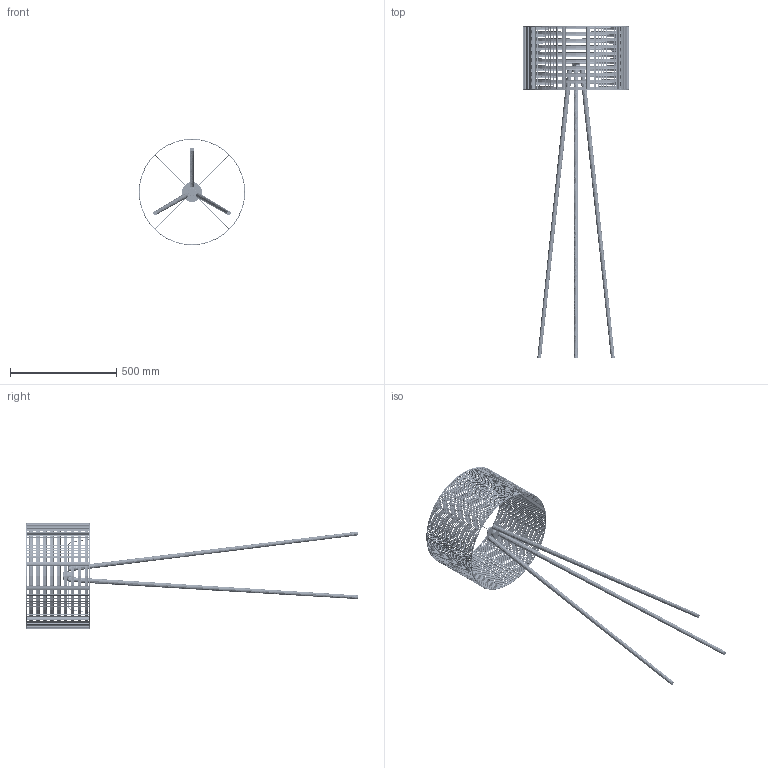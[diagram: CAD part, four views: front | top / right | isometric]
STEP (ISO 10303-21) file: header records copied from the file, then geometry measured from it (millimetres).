
FILE_DESCRIPTION(/* description */ (''),/* implementation_level */ '2;1');
FILE_NAME(/* name */ 'C:/Users/kubaw/OneDrive/Pulpit/Nowy folder (3)/JUTA_5569 v4.step',/* time_stamp */ '2021-12-11T13:31:41+01:00',/* author */ (''),/* organization */ (''),/* preprocessor_version */ 'ST-DEVELOPER v18.1',/* originating_system */ 'Autodesk Translation Framework v10.10.0.1391',/* authorisation */ '');
FILE_SCHEMA (('AUTOMOTIVE_DESIGN { 1 0 10303 214 3 1 1 }'));
Products named in the file (2): JUTA_5569; MOCOWANIE_JUTA3
Assembly tree (1 placements, depth 2):
  JUTA_5569
    MOCOWANIE_JUTA3
Bounding box: 500 x 1560 x 500 mm (x, y, z)
Volume: 1648597.7 mm3; surface area: 1745482.8 mm2
Topology: 1322 solids, 1322 shells, 16519 faces, 33624 edges, 19752 vertices
Faces by surface type: cylinder 8645, plane 6643, torus 1221, bspline 10
Full cylindrical faces by diameter (mm): 3 x12, 11 x3, 11.52 x1, 29.76 x1, 37.394 x10, 38 x1, 40.28 x1, 40.32 x1, 43.2 x3, 49.5 x1, 93 x1, 492 x2, 496 x300, 497 x300, 500 x2
Entity records: 431097 total; most frequent: DIRECTION 79518, CARTESIAN_POINT 75927, ORIENTED_EDGE 67248, EDGE_CURVE 33624, AXIS2_PLACEMENT_3D 29439, LINE 20640, VECTOR 20640, VERTEX_POINT 19752
